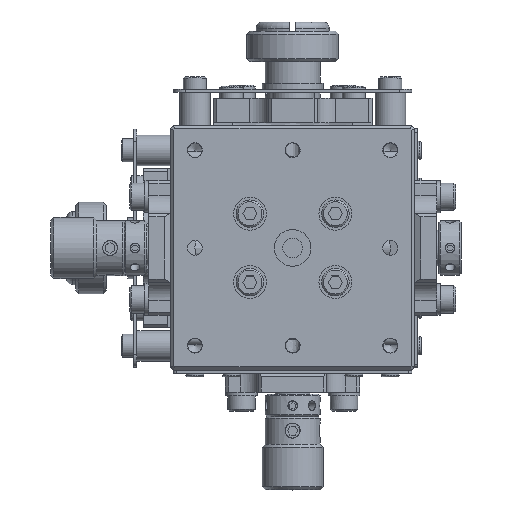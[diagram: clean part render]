
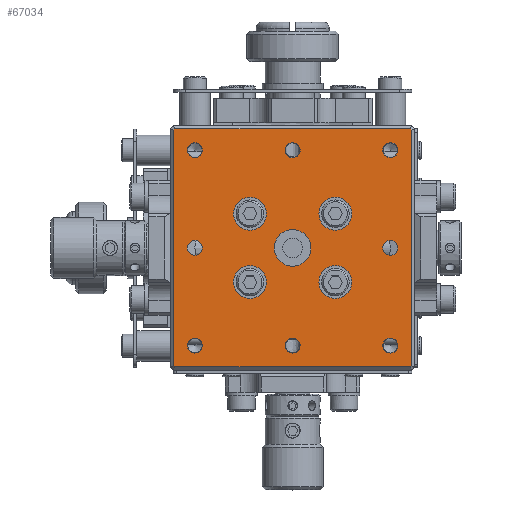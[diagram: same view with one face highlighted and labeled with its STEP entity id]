
A CAD part, top view. The second image highlights one B-rep face of the part: STEP entity #67034.
In plain terms, the highlighted planar face has unit normal (0, 0, 1).
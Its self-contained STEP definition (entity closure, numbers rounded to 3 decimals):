
#66524=CARTESIAN_POINT('',(19.293,19.5,-60.0));
#66525=VERTEX_POINT('',#66524);
#66526=CARTESIAN_POINT('',(19.5,19.293,-60.0));
#66527=VERTEX_POINT('',#66526);
#66528=CARTESIAN_POINT('',(19.293,19.5,-60.0));
#66529=DIRECTION('',(0.707,-0.707,0.0));
#66530=VECTOR('',#66529,0.293);
#66531=LINE('',#66528,#66530);
#66532=EDGE_CURVE('',#66525,#66527,#66531,.T.);
#66573=CARTESIAN_POINT('',(19.5,-19.293,-60.0));
#66574=VERTEX_POINT('',#66573);
#66575=CARTESIAN_POINT('',(19.5,19.293,-60.0));
#66576=DIRECTION('',(0.0,-1.0,0.0));
#66577=VECTOR('',#66576,38.586);
#66578=LINE('',#66575,#66577);
#66579=EDGE_CURVE('',#66527,#66574,#66578,.T.);
#66595=CARTESIAN_POINT('',(19.293,-19.5,-60.0));
#66596=VERTEX_POINT('',#66595);
#66597=CARTESIAN_POINT('',(19.5,-19.293,-60.0));
#66598=DIRECTION('',(-0.707,-0.707,0.0));
#66599=VECTOR('',#66598,0.293);
#66600=LINE('',#66597,#66599);
#66601=EDGE_CURVE('',#66574,#66596,#66600,.T.);
#66628=CARTESIAN_POINT('',(-19.293,-19.5,-60.0));
#66629=VERTEX_POINT('',#66628);
#66630=CARTESIAN_POINT('',(19.293,-19.5,-60.0));
#66631=DIRECTION('',(-1.0,0.0,0.0));
#66632=VECTOR('',#66631,38.586);
#66633=LINE('',#66630,#66632);
#66634=EDGE_CURVE('',#66596,#66629,#66633,.T.);
#66650=CARTESIAN_POINT('',(-19.5,-19.293,-60.0));
#66651=VERTEX_POINT('',#66650);
#66652=CARTESIAN_POINT('',(-19.293,-19.5,-60.0));
#66653=DIRECTION('',(-0.707,0.707,0.0));
#66654=VECTOR('',#66653,0.293);
#66655=LINE('',#66652,#66654);
#66656=EDGE_CURVE('',#66629,#66651,#66655,.T.);
#66681=CARTESIAN_POINT('',(-19.293,19.5,-60.0));
#66682=VERTEX_POINT('',#66681);
#66683=CARTESIAN_POINT('',(-19.293,19.5,-60.0));
#66684=DIRECTION('',(1.0,0.0,0.0));
#66685=VECTOR('',#66684,38.586);
#66686=LINE('',#66683,#66685);
#66687=EDGE_CURVE('',#66682,#66525,#66686,.T.);
#66731=CARTESIAN_POINT('',(-19.5,19.293,-60.0));
#66732=VERTEX_POINT('',#66731);
#66733=CARTESIAN_POINT('',(-19.5,-19.293,-60.0));
#66734=DIRECTION('',(0.0,1.0,0.0));
#66735=VECTOR('',#66734,38.586);
#66736=LINE('',#66733,#66735);
#66737=EDGE_CURVE('',#66651,#66732,#66736,.T.);
#66753=CARTESIAN_POINT('',(-19.5,19.293,-60.0));
#66754=DIRECTION('',(0.707,0.707,0.0));
#66755=VECTOR('',#66754,0.293);
#66756=LINE('',#66753,#66755);
#66757=EDGE_CURVE('',#66732,#66682,#66756,.T.);
#66876=CARTESIAN_POINT('',(0.0,20.0,-60.0));
#66877=DIRECTION('',(0.0,0.0,1.0));
#66878=DIRECTION('',(1.0,0.0,0.0));
#66879=AXIS2_PLACEMENT_3D('',#66876,#66877,#66878);
#66880=PLANE('',#66879);
#66881=ORIENTED_EDGE('',*,*,#66532,.F.);
#66882=ORIENTED_EDGE('',*,*,#66687,.F.);
#66883=ORIENTED_EDGE('',*,*,#66757,.F.);
#66884=ORIENTED_EDGE('',*,*,#66737,.F.);
#66885=ORIENTED_EDGE('',*,*,#66656,.F.);
#66886=ORIENTED_EDGE('',*,*,#66634,.F.);
#66887=ORIENTED_EDGE('',*,*,#66601,.F.);
#66888=ORIENTED_EDGE('',*,*,#66579,.F.);
#66889=EDGE_LOOP('',(#66881,#66882,#66883,#66884,#66885,#66886,#66887,#66888));
#66890=FACE_OUTER_BOUND('',#66889,.T.);
#66891=CARTESIAN_POINT('',(3.,0.0,-60.0));
#66892=VERTEX_POINT('',#66891);
#66893=CARTESIAN_POINT('',(0.0,0.0,-60.0));
#66894=DIRECTION('',(0.0,0.0,-1.0));
#66895=DIRECTION('',(1.0,0.0,0.0));
#66896=AXIS2_PLACEMENT_3D('',#66893,#66894,#66895);
#66897=CIRCLE('',#66896,3.);
#66898=EDGE_CURVE('',#66892,#66892,#66897,.T.);
#66899=ORIENTED_EDGE('',*,*,#66898,.T.);
#66900=EDGE_LOOP('',(#66899));
#66901=FACE_BOUND('',#66900,.T.);
#66902=CARTESIAN_POINT('',(8.3,7.,-60.0));
#66903=VERTEX_POINT('',#66902);
#66904=CARTESIAN_POINT('',(5.6,7.,-60.0));
#66905=DIRECTION('',(0.0,0.0,-1.0));
#66906=DIRECTION('',(1.0,0.0,0.0));
#66907=AXIS2_PLACEMENT_3D('',#66904,#66905,#66906);
#66908=CIRCLE('',#66907,2.7);
#66909=EDGE_CURVE('',#66903,#66903,#66908,.T.);
#66910=ORIENTED_EDGE('',*,*,#66909,.T.);
#66911=EDGE_LOOP('',(#66910));
#66912=FACE_BOUND('',#66911,.T.);
#66913=CARTESIAN_POINT('',(-2.9,7.,-60.0));
#66914=VERTEX_POINT('',#66913);
#66915=CARTESIAN_POINT('',(-5.6,7.,-60.0));
#66916=DIRECTION('',(0.0,0.0,-1.0));
#66917=DIRECTION('',(1.0,0.0,0.0));
#66918=AXIS2_PLACEMENT_3D('',#66915,#66916,#66917);
#66919=CIRCLE('',#66918,2.7);
#66920=EDGE_CURVE('',#66914,#66914,#66919,.T.);
#66921=ORIENTED_EDGE('',*,*,#66920,.T.);
#66922=EDGE_LOOP('',(#66921));
#66923=FACE_BOUND('',#66922,.T.);
#66924=CARTESIAN_POINT('',(-8.3,-7.,-60.0));
#66925=VERTEX_POINT('',#66924);
#66926=CARTESIAN_POINT('',(-5.6,-7.,-60.0));
#66927=DIRECTION('',(0.0,0.0,-1.0));
#66928=DIRECTION('',(-1.0,0.0,0.0));
#66929=AXIS2_PLACEMENT_3D('',#66926,#66927,#66928);
#66930=CIRCLE('',#66929,2.7);
#66931=EDGE_CURVE('',#66925,#66925,#66930,.T.);
#66932=ORIENTED_EDGE('',*,*,#66931,.T.);
#66933=EDGE_LOOP('',(#66932));
#66934=FACE_BOUND('',#66933,.T.);
#66935=CARTESIAN_POINT('',(2.9,-7.,-60.0));
#66936=VERTEX_POINT('',#66935);
#66937=CARTESIAN_POINT('',(5.6,-7.,-60.0));
#66938=DIRECTION('',(0.0,0.0,-1.0));
#66939=DIRECTION('',(-1.0,0.0,0.0));
#66940=AXIS2_PLACEMENT_3D('',#66937,#66938,#66939);
#66941=CIRCLE('',#66940,2.7);
#66942=EDGE_CURVE('',#66936,#66936,#66941,.T.);
#66943=ORIENTED_EDGE('',*,*,#66942,.T.);
#66944=EDGE_LOOP('',(#66943));
#66945=FACE_BOUND('',#66944,.T.);
#66946=CARTESIAN_POINT('',(-14.771,-16.0,-60.0));
#66947=VERTEX_POINT('',#66946);
#66948=CARTESIAN_POINT('',(-16.0,-16.0,-60.0));
#66949=DIRECTION('',(0.0,0.0,-1.0));
#66950=DIRECTION('',(1.0,0.0,0.0));
#66951=AXIS2_PLACEMENT_3D('',#66948,#66949,#66950);
#66952=CIRCLE('',#66951,1.23);
#66953=EDGE_CURVE('',#66947,#66947,#66952,.T.);
#66954=ORIENTED_EDGE('',*,*,#66953,.T.);
#66955=EDGE_LOOP('',(#66954));
#66956=FACE_BOUND('',#66955,.T.);
#66957=CARTESIAN_POINT('',(16.0,-14.771,-60.0));
#66958=VERTEX_POINT('',#66957);
#66959=CARTESIAN_POINT('',(16.0,-16.0,-60.0));
#66960=DIRECTION('',(0.0,0.0,-1.0));
#66961=DIRECTION('',(0.0,1.0,0.0));
#66962=AXIS2_PLACEMENT_3D('',#66959,#66960,#66961);
#66963=CIRCLE('',#66962,1.23);
#66964=EDGE_CURVE('',#66958,#66958,#66963,.T.);
#66965=ORIENTED_EDGE('',*,*,#66964,.T.);
#66966=EDGE_LOOP('',(#66965));
#66967=FACE_BOUND('',#66966,.T.);
#66968=CARTESIAN_POINT('',(14.771,16.0,-60.0));
#66969=VERTEX_POINT('',#66968);
#66970=CARTESIAN_POINT('',(16.0,16.0,-60.0));
#66971=DIRECTION('',(0.0,0.0,-1.0));
#66972=DIRECTION('',(-1.0,0.0,0.0));
#66973=AXIS2_PLACEMENT_3D('',#66970,#66971,#66972);
#66974=CIRCLE('',#66973,1.23);
#66975=EDGE_CURVE('',#66969,#66969,#66974,.T.);
#66976=ORIENTED_EDGE('',*,*,#66975,.T.);
#66977=EDGE_LOOP('',(#66976));
#66978=FACE_BOUND('',#66977,.T.);
#66979=CARTESIAN_POINT('',(-16.,14.771,-60.0));
#66980=VERTEX_POINT('',#66979);
#66981=CARTESIAN_POINT('',(-16.,16.,-60.0));
#66982=DIRECTION('',(0.0,0.0,-1.0));
#66983=DIRECTION('',(0.0,-1.0,0.0));
#66984=AXIS2_PLACEMENT_3D('',#66981,#66982,#66983);
#66985=CIRCLE('',#66984,1.23);
#66986=EDGE_CURVE('',#66980,#66980,#66985,.T.);
#66987=ORIENTED_EDGE('',*,*,#66986,.T.);
#66988=EDGE_LOOP('',(#66987));
#66989=FACE_BOUND('',#66988,.T.);
#66990=CARTESIAN_POINT('',(1.23,-16.0,-60.0));
#66991=VERTEX_POINT('',#66990);
#66992=CARTESIAN_POINT('',(0.0,-16.0,-60.0));
#66993=DIRECTION('',(0.0,0.0,-1.0));
#66994=DIRECTION('',(1.0,0.0,0.0));
#66995=AXIS2_PLACEMENT_3D('',#66992,#66993,#66994);
#66996=CIRCLE('',#66995,1.23);
#66997=EDGE_CURVE('',#66991,#66991,#66996,.T.);
#66998=ORIENTED_EDGE('',*,*,#66997,.T.);
#66999=EDGE_LOOP('',(#66998));
#67000=FACE_BOUND('',#66999,.T.);
#67001=CARTESIAN_POINT('',(-1.229,16.0,-60.0));
#67002=VERTEX_POINT('',#67001);
#67003=CARTESIAN_POINT('',(0.,16.0,-60.0));
#67004=DIRECTION('',(0.0,0.0,-1.0));
#67005=DIRECTION('',(-1.0,0.0,0.0));
#67006=AXIS2_PLACEMENT_3D('',#67003,#67004,#67005);
#67007=CIRCLE('',#67006,1.23);
#67008=EDGE_CURVE('',#67002,#67002,#67007,.T.);
#67009=ORIENTED_EDGE('',*,*,#67008,.T.);
#67010=EDGE_LOOP('',(#67009));
#67011=FACE_BOUND('',#67010,.T.);
#67012=CARTESIAN_POINT('',(17.23,0.0,-60.0));
#67013=VERTEX_POINT('',#67012);
#67014=CARTESIAN_POINT('',(16.0,0.0,-60.0));
#67015=DIRECTION('',(0.0,0.0,-1.0));
#67016=DIRECTION('',(1.0,0.0,0.0));
#67017=AXIS2_PLACEMENT_3D('',#67014,#67015,#67016);
#67018=CIRCLE('',#67017,1.23);
#67019=EDGE_CURVE('',#67013,#67013,#67018,.T.);
#67020=ORIENTED_EDGE('',*,*,#67019,.T.);
#67021=EDGE_LOOP('',(#67020));
#67022=FACE_BOUND('',#67021,.T.);
#67023=CARTESIAN_POINT('',(-17.23,0.,-60.0));
#67024=VERTEX_POINT('',#67023);
#67025=CARTESIAN_POINT('',(-16.0,0.,-60.0));
#67026=DIRECTION('',(0.0,0.0,-1.0));
#67027=DIRECTION('',(-1.0,0.0,0.0));
#67028=AXIS2_PLACEMENT_3D('',#67025,#67026,#67027);
#67029=CIRCLE('',#67028,1.23);
#67030=EDGE_CURVE('',#67024,#67024,#67029,.T.);
#67031=ORIENTED_EDGE('',*,*,#67030,.T.);
#67032=EDGE_LOOP('',(#67031));
#67033=FACE_BOUND('',#67032,.T.);
#67034=ADVANCED_FACE('',(#66890,#66901,#66912,#66923,#66934,#66945,#66956,#66967,#66978,#66989,#67000,#67011,#67022,#67033),#66880,.T.);
